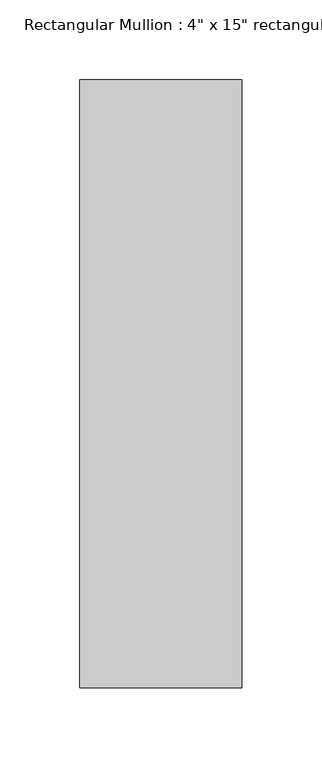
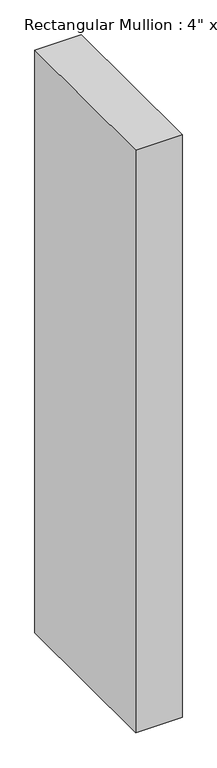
"""IFC4 building model written with IfcOpenShell, lengths in millimetres: member geometry."""

from ifc_helpers import new_model, si_unit, frame, origin, place, context, project, spatial, polyline, outline, extrude, source, transform, mapped, element, save


def member_b2e2283a(model_context):
    return source(origin(), model_context, "Body", "SweptSolid", [
        extrude(outline(polyline([(0.0, 63.5), (0.0, -317.5), (-101.6, -317.5), (-101.6, 63.5), (0.0, 63.5)])), frame((0.0, 0.0, -1346.2), z_axis=(0.0, 0.0, 1.0), x_axis=(1.0, 0.0, 0.0)), (0.0, 0.0, 1.0), 1346.2),
    ])


if __name__ == "__main__":
    model = new_model("IFC4")
    model_context = context("Model", 3, world=origin())
    ifc_project = project(units=[si_unit("LENGTHUNIT", "METRE", prefix="MILLI")], contexts=[model_context])
    site = spatial("IfcSite", under=ifc_project)
    building = spatial("IfcBuilding", under=site)
    placement = place(None, origin())
    member_shape = member_b2e2283a(model_context)
    element("IfcMember", 1, ObjectType="Rectangular Mullion : 4\" x 15\" rectangular", at=placement, inside=building, context=model_context, shape_type="MappedRepresentation", body=[
        mapped(member_shape, transform((0.0, 0.0, 0.0), x_axis=(1.0, 0.0, 0.0), y_axis=(0.0, 1.0, 0.0), z_axis=(0.0, 0.0, 1.0))),
    ])
    save(model, "model.ifc")
